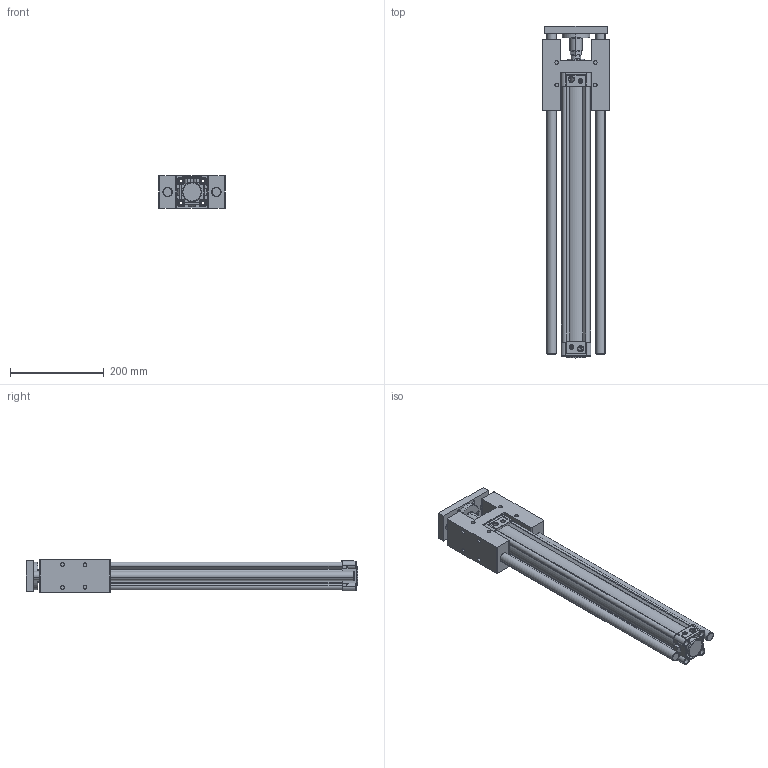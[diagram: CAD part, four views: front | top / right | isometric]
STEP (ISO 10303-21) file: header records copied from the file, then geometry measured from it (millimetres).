
FILE_DESCRIPTION (( 'STEP AP203' ), '1' );
FILE_NAME ('KDNT50X500H-YATAK.STEP', '2016-05-18T10:34:18', ( 'user' ), ( '' ), 'SwSTEP 2.0', 'SolidWorks 2013', '' );
FILE_SCHEMA (( 'CONFIG_CONTROL_DESIGN' ));
Length unit declared in the file: millimetre
Products named in the file (11): SOMUN 50; DNC-H-YATAK M尳 50X500; KDNT50X500H-YATAK; DNC-H-YATAK TABLA 50; DNC-H-YATAK MÝL YATAÐI 50; ARKA KAPAK 50; KDNT 50X500 BORU; ORTA PÝSTON 50; 烰 KAPAK  50; Piston Mili 50x500; DNC-H-YATAK 50
Assembly tree (11 placements, depth 2):
  KDNT50X500H-YATAK
    DNC-H-YATAK 50
    DNC-H-YATAK M尳 50X500  x2
    DNC-H-YATAK TABLA 50
    DNC-H-YATAK MÝL YATAÐI 50
    ARKA KAPAK 50
    KDNT 50X500 BORU
    ORTA PÝSTON 50
    烰 KAPAK  50
    Piston Mili 50x500
    SOMUN 50
Bounding box: 142 x 708.4 x 68.5 mm (x, y, z)
Volume: 2197222.7 mm3; surface area: 668242.1 mm2
Topology: 18 solids, 18 shells, 973 faces, 2485 edges, 1637 vertices
Faces by surface type: cylinder 496, plane 351, cone 80, bspline 34, torus 12
Entity records: 39109 total; most frequent: CARTESIAN_POINT 15107, ORIENTED_EDGE 4934, DIRECTION 4438, EDGE_CURVE 2467, AXIS2_PLACEMENT_3D 1696, VERTEX_POINT 1629, EDGE_LOOP 1152, VECTOR 1046
